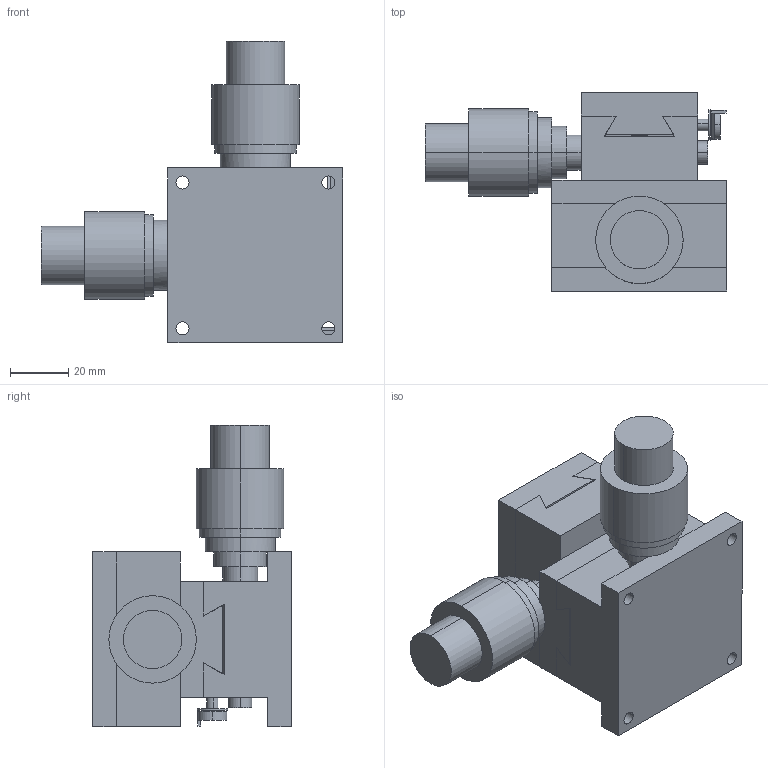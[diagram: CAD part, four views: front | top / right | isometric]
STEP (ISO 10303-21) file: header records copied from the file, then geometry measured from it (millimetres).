
FILE_DESCRIPTION (( 'STEP AP203' ), '1' );
FILE_NAME ('LD-612S.STEP', '2008-03-03T08:37:18', ( '' ), ( '' ), 'SwSTEP 2.0', 'SolidWorks 2007', '' );
FILE_SCHEMA (( 'CONFIG_CONTROL_DESIGN' ));
Length unit declared in the file: millimetre
Products named in the file (4): LD-612S-1; LD-612S; LD-612S-2; LD-612S-3
Assembly tree (3 placements, depth 2):
  LD-612S
    LD-612S-3
    LD-612S-2
    LD-612S-1
Bounding box: 103.5 x 68 x 103.5 mm (x, y, z)
Volume: 219242.7 mm3; surface area: 52346.7 mm2
Topology: 3 solids, 3 shells, 215 faces, 520 edges, 342 vertices
Faces by surface type: plane 117, cylinder 98
Entity records: 6806 total; most frequent: DIRECTION 1160, CARTESIAN_POINT 1095, ORIENTED_EDGE 1040, EDGE_CURVE 520, AXIS2_PLACEMENT_3D 423, VERTEX_POINT 342, LINE 314, VECTOR 314
